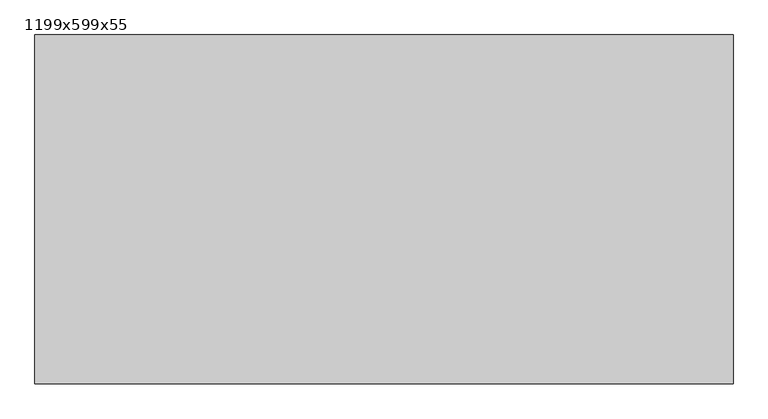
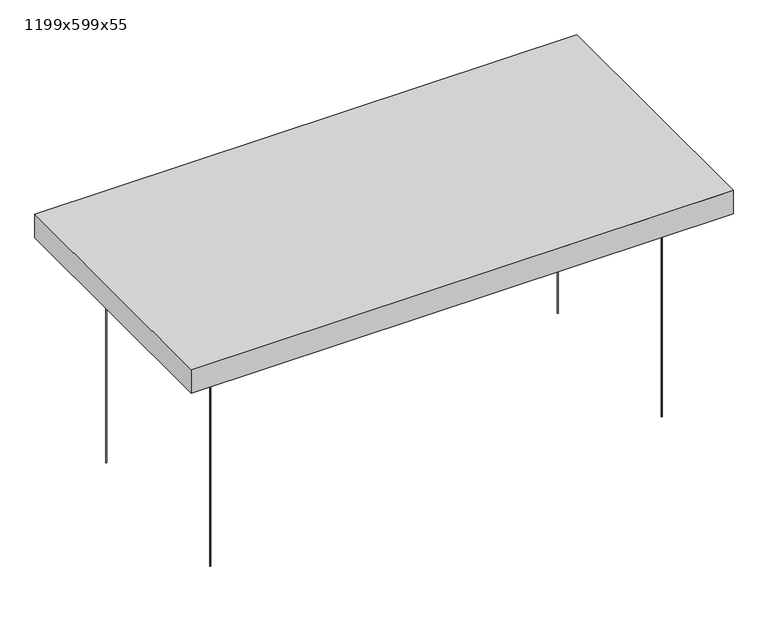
"""IFC4 building model written with IfcOpenShell, lengths in millimetres: proxy geometry, Texaa_Plafond respirant_Strato_Panneaux absorbant : 1199x599x55."""

from ifc_helpers import new_model, si_unit, point, frame, frame_2d, origin, origin_with_axes, place, context, project, spatial, polyline, circle_curve, trimmed, segment, composite_curve, outline, extrude, faceted_brep, source, transform, mapped, element, save


def proxy_1199x599x55_c3871d19(model_context):
    return source(origin(), model_context, "Body", "SolidModel", [
        extrude(outline(composite_curve([segment(trimmed(circle_curve(frame_2d((-499.5, -199.5)), 0.75), [point((-500.25, -199.5))], [point((-498.75, -199.5))], False, "CARTESIAN"), True, "CONTINUOUS"), segment(trimmed(circle_curve(frame_2d((-499.5, -199.5)), 0.75), [point((-498.75, -199.5))], [point((-500.25, -199.5))], False, "CARTESIAN"), True, "CONTINUOUS")], self_intersect=False)), origin_with_axes(), (0.0, 0.0, 1.0), 500.0),
        extrude(outline(composite_curve([segment(trimmed(circle_curve(frame_2d((499.5, -199.5)), 0.75), [point((498.75, -199.5))], [point((500.25, -199.5))], False, "CARTESIAN"), True, "CONTINUOUS"), segment(trimmed(circle_curve(frame_2d((499.5, -199.5)), 0.75), [point((500.25, -199.5))], [point((498.75, -199.5))], False, "CARTESIAN"), True, "CONTINUOUS")], self_intersect=False)), origin_with_axes(), (0.0, 0.0, 1.0), 500.0),
        extrude(outline(composite_curve([segment(trimmed(circle_curve(frame_2d((499.5, 199.5)), 0.75), [point((498.75, 199.5))], [point((500.25, 199.5))], False, "CARTESIAN"), True, "CONTINUOUS"), segment(trimmed(circle_curve(frame_2d((499.5, 199.5)), 0.75), [point((500.25, 199.5))], [point((498.75, 199.5))], False, "CARTESIAN"), True, "CONTINUOUS")], self_intersect=False)), origin_with_axes(), (0.0, 0.0, 1.0), 500.0),
        extrude(outline(composite_curve([segment(trimmed(circle_curve(frame_2d((-499.5, 199.5)), 0.75), [point((-500.25, 199.5))], [point((-498.75, 199.5))], False, "CARTESIAN"), True, "CONTINUOUS"), segment(trimmed(circle_curve(frame_2d((-499.5, 199.5)), 0.75), [point((-498.75, 199.5))], [point((-500.25, 199.5))], False, "CARTESIAN"), True, "CONTINUOUS")], self_intersect=False)), origin_with_axes(), (0.0, 0.0, 1.0), 500.0),
        extrude(outline(polyline([(-598.5, -298.5), (-598.5, 298.5), (598.5, 298.5), (598.5, -298.5), (-598.5, -298.5)])), frame((0.0, 0.0, 501.0), z_axis=(0.0, 0.0, 1.0), x_axis=(1.0, 0.0, 0.0)), (0.0, 0.0, 1.0), 53.0),
        faceted_brep([(-599.5, -299.5, 555.0), (599.5, -299.5, 555.0), (599.5, 299.5, 555.0), (-599.5, 299.5, 555.0), (-599.5, -299.5, 500.0), (-599.5, 299.5, 500.0), (599.5, 299.5, 500.0), (599.5, -299.5, 500.0), (-549.5, 249.5, 500.0), (-549.5, -249.5, 500.0), (549.5, -249.5, 500.0), (549.5, 249.5, 500.0), (549.5, 249.5, 501.0), (-549.5, 249.5, 501.0), (549.5, -249.5, 501.0), (-549.5, -249.5, 501.0), (-598.5, -298.5, 554.0), (-598.5, 298.5, 554.0), (598.5, 298.5, 554.0), (598.5, -298.5, 554.0), (-598.5, -298.5, 501.0), (598.5, -298.5, 501.0), (598.5, 298.5, 501.0), (-598.5, 298.5, 501.0)], [[[0, 1, 2, 3]], [[4, 5, 6, 7], [8, 9, 10, 11]], [[3, 5, 4, 0]], [[2, 6, 5, 3]], [[1, 7, 6, 2]], [[0, 4, 7, 1]], [[8, 11, 12, 13]], [[11, 10, 14, 12]], [[10, 9, 15, 14]], [[13, 15, 9, 8]], [[16, 17, 18, 19]], [[20, 21, 22, 23], [12, 14, 15, 13]], [[16, 20, 23, 17]], [[17, 23, 22, 18]], [[18, 22, 21, 19]], [[19, 21, 20, 16]]]),
    ])


if __name__ == "__main__":
    model = new_model("IFC4")
    model_context = context("Model", 3, world=origin())
    ifc_project = project(units=[si_unit("LENGTHUNIT", "METRE", prefix="MILLI")], contexts=[model_context])
    site = spatial("IfcSite", under=ifc_project)
    building = spatial("IfcBuilding", under=site)
    placement = place(None, origin())
    proxy_1199x599x55_shape = proxy_1199x599x55_c3871d19(model_context)
    element("IfcBuildingElementProxy", 1, Name="Texaa_Plafond respirant_Strato_Panneaux absorbant : 1199x599x55", ObjectType="Texaa_Plafond respirant_Strato_Panneaux absorbant : 1199x599x55", at=placement, inside=building, context=model_context, shape_type="MappedRepresentation", body=[
        mapped(proxy_1199x599x55_shape, transform((0.0, 0.0, 0.0), x_axis=(1.0, 0.0, 0.0), y_axis=(0.0, 1.0, 0.0), z_axis=(0.0, 0.0, 1.0))),
    ])
    save(model, "model.ifc")
